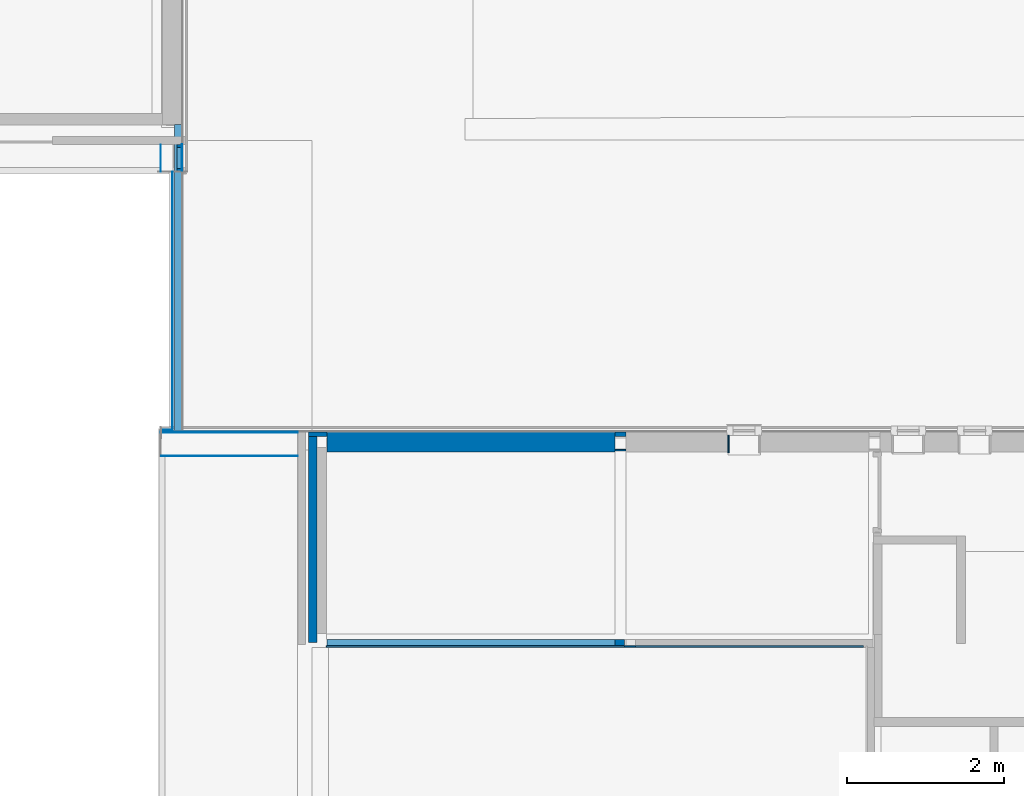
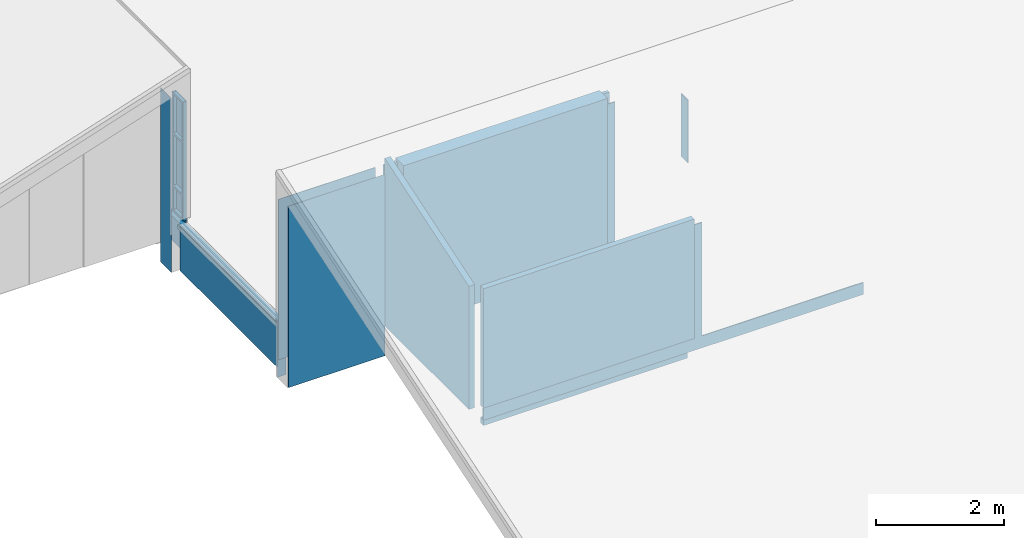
# One storey, part 17 of 66: 17 walls, 2 openings.
"""IFC2X3 building model written with IfcOpenShell, lengths in millimetres."""

from ifc_helpers import new_model, entity, si_unit, converted_unit, derived_unit, direction, frame, frame_2d, origin, origin_2d_with_axis, place, context, subcontext, project, spatial, rectangle, extrude, clip, halfspace, material, layer, layer_set, layer_usage, type_object, element, save


model = new_model("IFC2X3")

# Units and contexts
model_context = context("Model", 3, precision=0.01, world=origin(), true_north=direction((6.12303176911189e-17, 1.0)))
body_context = subcontext(model_context, "Body", "Model", "MODEL_VIEW")
ifc_project = project(units=[si_unit("LENGTHUNIT", "METRE", prefix="MILLI"), si_unit("AREAUNIT", "SQUARE_METRE"), si_unit("VOLUMEUNIT", "CUBIC_METRE"), converted_unit("PLANEANGLEUNIT", "DEGREE", entity("IfcRatioMeasure", 0.0174532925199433), si_unit("PLANEANGLEUNIT", "RADIAN"), dimensions=[0, 0, 0, 0, 0, 0, 0]), si_unit("MASSUNIT", "GRAM", prefix="KILO"), derived_unit("MASSDENSITYUNIT", [(si_unit("MASSUNIT", "GRAM", prefix="KILO"), 1), (si_unit("LENGTHUNIT", "METRE"), -3)]), derived_unit("MOMENTOFINERTIAUNIT", [(si_unit("LENGTHUNIT", "METRE"), 4)]), si_unit("TIMEUNIT", "SECOND"), si_unit("FREQUENCYUNIT", "HERTZ"), si_unit("THERMODYNAMICTEMPERATUREUNIT", "DEGREE_CELSIUS"), derived_unit("THERMALTRANSMITTANCEUNIT", [(si_unit("MASSUNIT", "GRAM", prefix="KILO"), 1), (si_unit("THERMODYNAMICTEMPERATUREUNIT", "KELVIN"), -1), (si_unit("TIMEUNIT", "SECOND"), -3)]), derived_unit("VOLUMETRICFLOWRATEUNIT", [(si_unit("LENGTHUNIT", "METRE"), 3), (si_unit("TIMEUNIT", "SECOND"), -1)]), si_unit("ELECTRICCURRENTUNIT", "AMPERE"), si_unit("ELECTRICVOLTAGEUNIT", "VOLT"), si_unit("POWERUNIT", "WATT"), si_unit("FORCEUNIT", "NEWTON", prefix="KILO"), si_unit("ILLUMINANCEUNIT", "LUX"), si_unit("LUMINOUSFLUXUNIT", "LUMEN"), si_unit("LUMINOUSINTENSITYUNIT", "CANDELA"), derived_unit("USERDEFINED", [(si_unit("MASSUNIT", "GRAM", prefix="KILO"), -1), (si_unit("LENGTHUNIT", "METRE"), -2), (si_unit("TIMEUNIT", "SECOND"), 3), (si_unit("LUMINOUSFLUXUNIT", "LUMEN"), 1)]), derived_unit("LINEARVELOCITYUNIT", [(si_unit("LENGTHUNIT", "METRE"), 1), (si_unit("TIMEUNIT", "SECOND"), -1)]), si_unit("PRESSUREUNIT", "PASCAL"), derived_unit("USERDEFINED", [(si_unit("LENGTHUNIT", "METRE"), -2), (si_unit("MASSUNIT", "GRAM", prefix="KILO"), 1), (si_unit("TIMEUNIT", "SECOND"), -2)]), derived_unit("LINEARFORCEUNIT", [(si_unit("MASSUNIT", "GRAM", prefix="KILO"), 1), (si_unit("LENGTHUNIT", "METRE"), 1), (si_unit("TIMEUNIT", "SECOND"), -2), (si_unit("LENGTHUNIT", "METRE"), -1)]), derived_unit("PLANARFORCEUNIT", [(si_unit("MASSUNIT", "GRAM", prefix="KILO"), 1), (si_unit("LENGTHUNIT", "METRE"), 1), (si_unit("TIMEUNIT", "SECOND"), -2), (si_unit("LENGTHUNIT", "METRE"), -2)])], contexts=[model_context])

# Site, building, storey
site_placement = place(None, origin())
site = spatial("IfcSite", under=ifc_project, at=site_placement, Name="Default", CompositionType="ELEMENT")
building_placement = place(site_placement, origin())
building = spatial("IfcBuilding", under=site, at=building_placement, Name="-", CompositionType="ELEMENT")
storey_placement = place(building_placement, frame((0.0, 0.0, 3070.0)))
storey = spatial("IfcBuildingStorey", under=building, at=storey_placement, Name="01 eerste verdieping", CompositionType="ELEMENT", Elevation=3070.00000000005)

# Walls
ifc_material_1 = material(Name="NLRS_i4_hout_multiplex zwart")
ifc_layer_1 = layer(ifc_material_1, 15.0)
ifc_material_2 = material(Name="NLRS_m1_isolatie")
ifc_layer_2 = layer(ifc_material_2, 75.0)
ifc_material_3 = material(Name="NLRS_f7_gipsplaat_gen")
ifc_layer_3 = layer(ifc_material_3, 12.5)
ifc_layer_set_1 = layer_set([ifc_layer_1, ifc_layer_2, ifc_layer_3], Name="Basic Wall:NLRS_21_WA_Metalstud 100mm (achter sierbekleding)")
ifc_layer_usage_1 = layer_usage(ifc_layer_set_1, "AXIS2", "POSITIVE", -51.25)
wall_type_1 = type_object("IfcWallType", Name="Basic Wall:NLRS_21_WA_Metalstud 100mm (achter sierbekleding)", PredefinedType="STANDARD", material=ifc_layer_set_1)
wall_1_placement = place(storey_placement, frame((11633.0104288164, 7699.87122230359, -18.0)))
element("IfcWallStandardCase", 1, at=wall_1_placement, inside=storey, type_object=wall_type_1, material=ifc_layer_usage_1, Name="Basic Wall:NLRS_21_WA_Metalstud 100mm (achter sierbekleding)", ObjectType="Basic Wall:NLRS_21_WA_Metalstud 100mm (achter sierbekleding)", context=body_context, shape_type="SweptSolid", body=[
    extrude(rectangle(XDim=3803.85, YDim=102.500000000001, at=frame_2d((1901.925, 1.45661260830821e-13), x_axis=(-1.0, 0.0))), origin(), (0.0, 0.0, 1.0), 2278.0),
])
ifc_layer_usage_2 = layer_usage(ifc_layer_set_1, "AXIS2", "POSITIVE", -51.25)
wall_2_placement = place(storey_placement, frame((11633.0104288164, 7699.87122230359, -350.0)))
element("IfcWallStandardCase", 2, at=wall_2_placement, inside=storey, type_object=wall_type_1, material=ifc_layer_usage_2, Name="Basic Wall:NLRS_21_WA_Metalstud 100mm (achter sierbekleding)", ObjectType="Basic Wall:NLRS_21_WA_Metalstud 100mm (achter sierbekleding)", context=body_context, shape_type="SweptSolid", body=[
    extrude(rectangle(XDim=3683.5, YDim=102.500000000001, at=frame_2d((1841.75, -4.61852778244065e-14), x_axis=(-1.0, 0.0))), origin(), (0.0, 0.0, 1.0), 101.999999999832),
])
ifc_material_4 = material(Name="h7_zink zwart")
ifc_layer_4 = layer(ifc_material_4, 3.0)
ifc_layer_set_2 = layer_set([ifc_layer_4], Name="Basic Wall:NLRS_42_WA_beplating_zijkant hellend dak")
ifc_layer_usage_3 = layer_usage(ifc_layer_set_2, "AXIS2", "NEGATIVE", 1.5)
wall_type_2 = type_object("IfcWallType", Name="Basic Wall:NLRS_42_WA_beplating_zijkant hellend dak", PredefinedType="STANDARD", material=ifc_layer_set_2)
wall_3_placement = place(storey_placement, frame((9518.49178769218, 10094.6240954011, -370.0)))
element("IfcWallStandardCase", 3, at=wall_3_placement, inside=storey, type_object=wall_type_2, material=ifc_layer_usage_3, Name="Basic Wall:NLRS_42_WA_beplating_zijkant hellend dak", ObjectType="Basic Wall:NLRS_42_WA_beplating_zijkant hellend dak", context=body_context, shape_type="SweptSolid", body=[
    extrude(rectangle(XDim=1743.01864112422, YDim=2.99999999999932, at=frame_2d((871.509320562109, 4.56079618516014e-13), x_axis=(-1.0, 0.0))), origin(), (0.0, 0.0, 1.0), 3465.21906451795),
])
ifc_layer_usage_4 = layer_usage(ifc_layer_set_2, "AXIS2", "NEGATIVE", 1.5)
wall_4_placement = place(storey_placement, frame((9509.49999999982, 13728.8169709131, -370.0), z_axis=(0.0, 0.0, 1.0), x_axis=(0.0, 1.0, 0.0)))
element("IfcWallStandardCase", 4, at=wall_4_placement, inside=storey, type_object=wall_type_2, material=ifc_layer_usage_4, Name="Basic Wall:NLRS_42_WA_beplating_zijkant hellend dak", ObjectType="Basic Wall:NLRS_42_WA_beplating_zijkant hellend dak", context=body_context, shape_type="SweptSolid", body=[
    extrude(rectangle(XDim=341.30712448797, YDim=2.99999999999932, at=frame_2d((170.653562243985, -2.83106871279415e-13), x_axis=(-1.0, 0.0))), origin(), (0.0, 0.0, 1.0), 3321.0841471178),
])
ifc_layer_usage_5 = layer_usage(ifc_layer_set_2, "AXIS2", "NEGATIVE", 1.5)
wall_5_placement = place(storey_placement, frame((9518.49178769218, 10425.6240954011, -370.0)))
element("IfcWallStandardCase", 5, at=wall_5_placement, inside=storey, type_object=wall_type_2, material=ifc_layer_usage_5, Name="Basic Wall:NLRS_42_WA_beplating_zijkant hellend dak", ObjectType="Basic Wall:NLRS_42_WA_beplating_zijkant hellend dak", context=body_context, shape_type="SweptSolid", body=[
    extrude(rectangle(XDim=147.508212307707, YDim=2.99999999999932, at=frame_2d((73.7541061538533, 0.0), x_axis=(-1.0, 0.0))), origin(), (0.0, 0.0, 1.0), 989.999999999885),
])
ifc_material_5 = material(Name="NLRS_n7_Kooltherm Resol hardschuim 0.02 (0.1)_Kingspan")
ifc_layer_5 = layer(ifc_material_5, 105.0)
ifc_layer_set_3 = layer_set([ifc_layer_5], Name="Basic Wall:NLRS_22_WA_LB_isolatie Kooltherm K8 105mm_Kingspan_BO")
ifc_layer_usage_6 = layer_usage(ifc_layer_set_3, "AXIS2", "NEGATIVE", 52.5)
wall_type_3 = type_object("IfcWallType", Name="Basic Wall:NLRS_22_WA_LB_isolatie Kooltherm K8 105mm_Kingspan_BO", PredefinedType="STANDARD", material=ifc_layer_set_3)
wall_6_placement = place(storey_placement, frame((11454.0104288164, 10341.820250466, 0.0), z_axis=(0.0, 0.0, 1.0), x_axis=(0.0, -1.0, 0.0)))
element("IfcWallStandardCase", 6, at=wall_6_placement, inside=storey, type_object=wall_type_3, material=ifc_layer_usage_6, Name="Basic Wall:NLRS_22_WA_LB_isolatie Kooltherm K8 105mm_Kingspan_BO", ObjectType="Basic Wall:NLRS_22_WA_LB_isolatie Kooltherm K8 105mm_Kingspan_BO", context=body_context, shape_type="Clipping", body=[
    clip(extrude(rectangle(XDim=2632.6990281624, YDim=105.000000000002, at=frame_2d((1316.3495140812, 3.5527136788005e-15), x_axis=(-1.0, 0.0))), origin(), (0.0, 0.0, 1.0), 3203.5427253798), halfspace(frame((0.0, -52.4999999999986, 3203.5427253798), z_axis=(0.307618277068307, 0.0, 0.951509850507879), x_axis=(0.0, 1.0, 0.0)), False)),
])
ifc_material_6 = material(Name="n6_kunststof_RAL 7035")
ifc_layer_6 = layer(ifc_material_6, 10.0)
ifc_layer_set_4 = layer_set([ifc_layer_6], Name="Basic Wall:NLRS_42_WA_Trespa RAL 7035 - 10mm")
ifc_layer_usage_7 = layer_usage(ifc_layer_set_4, "AXIS2", "NEGATIVE", 5.0)
wall_type_4 = type_object("IfcWallType", Name="Basic Wall:NLRS_42_WA_Trespa RAL 7035 - 10mm", PredefinedType="STANDARD", material=ifc_layer_set_4)
wall_7_placement = place(storey_placement, frame((9661.0, 10442.1240954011, -380.0), z_axis=(0.0, 0.0, 1.0), x_axis=(0.0, 1.0, 0.0)))
element("IfcWallStandardCase", 7, at=wall_7_placement, inside=storey, type_object=wall_type_4, material=ifc_layer_usage_7, Name="Basic Wall:NLRS_42_WA_Trespa RAL 7035 - 10mm", ObjectType="Basic Wall:NLRS_42_WA_Trespa RAL 7035 - 10mm", context=body_context, shape_type="SweptSolid", body=[
    extrude(rectangle(XDim=3283.69287551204, YDim=9.99999999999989, at=frame_2d((1641.84643775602, -1.77635683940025e-15), x_axis=(-1.0, 0.0))), origin(), (0.0, 0.0, 1.0), 849.100000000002),
])
ifc_layer_7 = layer(ifc_material_2, 89.0)
ifc_material_7 = material(Name="NLRS_i4_hout_multiplex")
ifc_layer_8 = layer(ifc_material_7, 9.0)
ifc_layer_set_5 = layer_set([ifc_layer_7, ifc_layer_8], Name="Basic Wall:NLRS_21_WA_HSB-wand_98mm")
ifc_layer_usage_8 = layer_usage(ifc_layer_set_5, "AXIS2", "NEGATIVE", 49.0)
wall_type_5 = type_object("IfcWallType", Name="Basic Wall:NLRS_21_WA_HSB-wand_98mm", PredefinedType="STANDARD", material=ifc_layer_set_5)
wall_8_placement = place(storey_placement, frame((9737.0, 10395.6240954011, 0.0), z_axis=(0.0, 0.0, 1.0), x_axis=(0.0, 1.0, 0.0)))
element("IfcWallStandardCase", 8, at=wall_8_placement, inside=storey, type_object=wall_type_5, material=ifc_layer_usage_8, Name="Basic Wall:NLRS_21_WA_HSB-wand_98mm", ObjectType="Basic Wall:NLRS_21_WA_HSB-wand_98mm", context=body_context, shape_type="SweptSolid", body=[
    extrude(rectangle(XDim=3934.19615506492, YDim=98.0000000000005, at=frame_2d((1967.09807753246, 1.45661260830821e-13), x_axis=(-1.0, 0.0))), origin(), (0.0, 0.0, 1.0), 469.100000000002),
])
ifc_layer_9 = layer(ifc_material_7, 18.0)
ifc_layer_set_6 = layer_set([ifc_layer_9], Name="Basic Wall:NLRS_41_WA_plaatmateriaal 18mm_gen_aly")
ifc_layer_usage_9 = layer_usage(ifc_layer_set_6, "AXIS2", "POSITIVE", -9.0)
wall_type_6 = type_object("IfcWallType", Name="Basic Wall:NLRS_41_WA_plaatmateriaal 18mm_gen_aly", PredefinedType="STANDARD", material=ifc_layer_set_6)
wall_9_placement = place(storey_placement, frame((15315.8284331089, 10168.624095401, 0.0)))
element("IfcWallStandardCase", 9, at=wall_9_placement, inside=storey, type_object=wall_type_6, material=ifc_layer_usage_9, Name="Basic Wall:NLRS_41_WA_plaatmateriaal 18mm_gen_aly", ObjectType="Basic Wall:NLRS_41_WA_plaatmateriaal 18mm_gen_aly", context=body_context, shape_type="SweptSolid", body=[
    extrude(rectangle(XDim=140.000000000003, YDim=18.0000000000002, at=frame_2d((70.0000000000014, 1.55431223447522e-13), x_axis=(-1.0, 0.0))), origin(), (0.0, 0.0, 1.0), 2970.0),
])
ifc_layer_10 = layer(ifc_material_7, 10.0)
ifc_layer_11 = layer(ifc_material_2, 235.0)
ifc_layer_12 = layer(ifc_material_7, 10.0)
ifc_layer_set_7 = layer_set([ifc_layer_10, ifc_layer_11, ifc_layer_12], Name="Basic Wall:NLRS_21_WA_HSB-wand_268mm (zonder gips)")
ifc_layer_usage_10 = layer_usage(ifc_layer_set_7, "AXIS2", "NEGATIVE", 127.5)
wall_type_7 = type_object("IfcWallType", Name="Basic Wall:NLRS_21_WA_HSB-wand_268mm (zonder gips)", PredefinedType="STANDARD", material=ifc_layer_set_7)
wall_10_placement = place(storey_placement, frame((11633.0104288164, 10274.6240954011, 0.0)))
element("IfcWallStandardCase", 10, at=wall_10_placement, inside=storey, type_object=wall_type_7, material=ifc_layer_usage_10, Name="Basic Wall:NLRS_21_WA_HSB-wand_268mm (zonder gips)", ObjectType="Basic Wall:NLRS_21_WA_HSB-wand_268mm (zonder gips)", context=body_context, shape_type="SweptSolid", body=[
    extrude(rectangle(XDim=3682.81800429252, YDim=254.999999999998, at=frame_2d((1841.40900214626, 4.05009359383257e-13), x_axis=(-1.0, 0.0))), origin(), (0.0, 0.0, 1.0), 3093.29999999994),
])
ifc_material_8 = material(Name="AL_Multiplex RAL 9002")
ifc_layer_13 = layer(ifc_material_8, 15.0)
ifc_layer_set_8 = layer_set([ifc_layer_13], Name="Basic Wall:NLRS_41_WA_plaatmateriaal 15mm RAL 9002")
ifc_layer_usage_11 = layer_usage(ifc_layer_set_8, "AXIS2", "NEGATIVE", 7.5)
wall_type_8 = type_object("IfcWallType", Name="Basic Wall:NLRS_41_WA_plaatmateriaal 15mm RAL 9002", PredefinedType="STANDARD", material=ifc_layer_set_8)
wall_11_placement = place(storey_placement, frame((16765.5000000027, 10357.1240954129, 1361.0), z_axis=(0.0, 0.0, 1.0), x_axis=(0.0, -1.0, 0.0)))
element("IfcWallStandardCase", 11, at=wall_11_placement, inside=storey, type_object=wall_type_8, material=ifc_layer_usage_11, Name="Basic Wall:NLRS_41_WA_plaatmateriaal 15mm RAL 9002", ObjectType="Basic Wall:NLRS_41_WA_plaatmateriaal 15mm RAL 9002", context=body_context, shape_type="SweptSolid", body=[
    extrude(rectangle(XDim=220.0, YDim=15.0000000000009, at=frame_2d((110.0, -4.70290473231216e-13), x_axis=(-1.0, 0.0))), origin(), (0.0, 0.0, 1.0), 1192.99999999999),
])
ifc_material_9 = material(Name="NLRS_n7_isolatie PIR_gen")
ifc_layer_14 = layer(ifc_material_9, 60.0)
ifc_layer_set_9 = layer_set([ifc_layer_14], Name="Basic Wall:NLRS_22_WA_LB_isolatie PIR 60mm")
ifc_layer_usage_12 = layer_usage(ifc_layer_set_9, "AXIS2", "NEGATIVE", 30.0)
wall_type_9 = type_object("IfcWallType", Name="Basic Wall:NLRS_22_WA_LB_isolatie PIR 60mm", PredefinedType="STANDARD", material=ifc_layer_set_9)
wall_12_placement = place(storey_placement, frame((15315.8284331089, 10370.728362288, 0.0)))
element("IfcWallStandardCase", 12, at=wall_12_placement, inside=storey, type_object=wall_type_9, material=ifc_layer_usage_12, Name="Basic Wall:NLRS_22_WA_LB_isolatie PIR 60mm", ObjectType="Basic Wall:NLRS_22_WA_LB_isolatie PIR 60mm", context=body_context, shape_type="SweptSolid", body=[
    extrude(rectangle(XDim=139.999999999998, YDim=59.9999999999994, at=frame_2d((69.9999999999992, 2.57571741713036e-13), x_axis=(-1.0, 0.0))), origin(), (0.0, 0.0, 1.0), 3045.0),
])
ifc_layer_usage_13 = layer_usage(ifc_layer_set_9, "AXIS2", "NEGATIVE", 30.0)
wall_13_placement = place(storey_placement, frame((11401.5104288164, 10371.820250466, 0.0)))
element("IfcWallStandardCase", 13, at=wall_13_placement, inside=storey, type_object=wall_type_9, material=ifc_layer_usage_13, Name="Basic Wall:NLRS_22_WA_LB_isolatie PIR 60mm", ObjectType="Basic Wall:NLRS_22_WA_LB_isolatie PIR 60mm", context=body_context, shape_type="SweptSolid", body=[
    extrude(rectangle(XDim=231.500000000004, YDim=59.9999999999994, at=frame_2d((115.750000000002, 4.2810199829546e-13), x_axis=(-1.0, 0.0))), origin(), (0.0, 0.0, 1.0), 3045.0),
])
ifc_material_10 = material(Name="NLRS_i4_hout_multiplex wit")
ifc_layer_15 = layer(ifc_material_10, 9.0)
ifc_layer_set_10 = layer_set([ifc_layer_15], Name="Basic Wall:NLRS_41_WA_plaatmateriaal 9mm_gen_aly")
ifc_layer_usage_14 = layer_usage(ifc_layer_set_10, "AXIS2", "NEGATIVE", 4.5)
wall_type_10 = type_object("IfcWallType", Name="Basic Wall:NLRS_41_WA_plaatmateriaal 9mm_gen_aly", PredefinedType="STANDARD", material=ifc_layer_set_10)
wall_14_placement = place(storey_placement, frame((11261.5104288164, 10397.624095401, -18.0), z_axis=(0.0, 0.0, 1.0), x_axis=(-1.0, 0.0, 0.0)))
element("IfcWallStandardCase", 14, at=wall_14_placement, inside=storey, type_object=wall_type_10, material=ifc_layer_usage_14, Name="Basic Wall:NLRS_41_WA_plaatmateriaal 9mm_gen_aly", ObjectType="Basic Wall:NLRS_41_WA_plaatmateriaal 9mm_gen_aly", context=body_context, shape_type="SweptSolid", body=[
    extrude(rectangle(XDim=1750.51042881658, YDim=8.99999999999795, at=frame_2d((875.255214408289, 0.0), x_axis=(-1.0, 0.0))), origin(), (0.0, 0.0, 1.0), 3063.0),
])
ifc_layer_usage_15 = layer_usage(ifc_layer_set_10, "AXIS2", "NEGATIVE", 4.5)
wall_15_placement = place(storey_placement, frame((9781.49999999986, 13737.3169709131, 369.385184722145), z_axis=(0.0, 0.0, 1.0), x_axis=(0.0, 1.0, 0.0)))
element("IfcWallStandardCase", 15, at=wall_15_placement, inside=storey, type_object=wall_type_10, material=ifc_layer_usage_15, Name="Basic Wall:NLRS_41_WA_plaatmateriaal 9mm_gen_aly", ObjectType="Basic Wall:NLRS_41_WA_plaatmateriaal 9mm_gen_aly", context=body_context, shape_type="SweptSolid", body=[
    extrude(rectangle(XDim=337.807124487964, YDim=8.99999999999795, at=frame_2d((168.903562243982, 0.0), x_axis=(-1.0, 0.0))), origin(), (0.0, 0.0, 1.0), 2436.79165087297),
])

# Wall, openings
ifc_layer_16 = layer(ifc_material_1, 18.0)
ifc_layer_set_11 = layer_set([ifc_layer_16], Name="Basic Wall:NLRS_41_WA_plaatmateriaal 18mm zwart")
ifc_layer_usage_16 = layer_usage(ifc_layer_set_11, "AXIS2", "NEGATIVE", 9.0)
wall_type_11 = type_object("IfcWallType", Name="Basic Wall:NLRS_41_WA_plaatmateriaal 18mm zwart", PredefinedType="STANDARD", material=ifc_layer_set_11)
wall_16_placement = place(storey_placement, frame((18490.1948343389, 7657.62122230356, -248.0), z_axis=(0.0, 0.0, 1.0), x_axis=(-1.0, 0.0, 0.0)))
wall_16 = element("IfcWallStandardCase", 16, at=wall_16_placement, inside=storey, type_object=wall_type_11, material=ifc_layer_usage_16, Name="Basic Wall:NLRS_41_WA_plaatmateriaal 18mm zwart", ObjectType="Basic Wall:NLRS_41_WA_plaatmateriaal 18mm zwart", context=body_context, shape_type="Clipping", body=[
    clip(extrude(rectangle(XDim=6863.68440552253, YDim=18.0000000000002, at=frame_2d((3431.84220276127, 0.0), x_axis=(-1.0, 0.0))), origin(), (0.0, 0.0, 1.0), 2397.99999999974), halfspace(frame((2913.63440704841, -9.0, 2398.0), z_axis=(0.0, 0.0, 1.0), x_axis=(0.0, 1.0, 0.0)), False)),
])
opening_1_placement = place(wall_16_placement, origin())
element("IfcOpeningElement", 17, at=opening_1_placement, cuts=wall_16, Name="Basic Wall:NLRS_41_WA_plaatmateriaal 18mm zwart", ObjectType="Opening", context=body_context, shape_type="SweptSolid", body=[
    extrude(rectangle(XDim=2167.99999999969, YDim=3810.35, at=frame_2d((2.27373675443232e-13, -1.02318153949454e-12), x_axis=(1.0, 0.0))), frame((4958.50940552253, 9.0, 1314.0), z_axis=(0.0, -1.0, 0.0), x_axis=(0.0, 0.0, 1.0)), (0.0, 0.0, 1.0), 18.0),
])
opening_2_placement = place(wall_16_placement, origin())
element("IfcOpeningElement", 18, at=opening_2_placement, cuts=wall_16, Name="Basic Wall:NLRS_41_WA_plaatmateriaal 18mm zwart", ObjectType="Opening", context=body_context, shape_type="SweptSolid", body=[
    extrude(rectangle(XDim=2167.99999999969, YDim=2913.63440704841, at=frame_2d((-1.13686837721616e-12, 2.27373675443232e-13), x_axis=(0.0, 1.0))), frame((1456.81720352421, 9.0, 1314.0), z_axis=(0.0, -1.0, 0.0), x_axis=(-1.0, 0.0, 0.0)), (0.0, 0.0, 1.0), 18.0),
])

# Wall
ifc_material_11 = material(Name="AL_31_Naaldhout (vuren)")
wall_type_12 = type_object("IfcWallType", Name="Bevestiging zinken kader dak14:Bevestiging zinken kader dak", PredefinedType="NOTDEFINED", material=ifc_material_11)
wall_17_placement = place(storey_placement, frame((9719.0, 13728.8169709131, 532.5), z_axis=(0.0, 0.0, 1.0), x_axis=(0.0, 1.0, 0.0)))
element("IfcWall", 19, at=wall_17_placement, inside=storey, type_object=wall_type_12, material=ifc_material_11, Name="Bevestiging zinken kader dak14:Bevestiging zinken kader dak", ObjectType="Bevestiging zinken kader dak14:Bevestiging zinken kader dak", context=body_context, shape_type="SweptSolid", body=[
    extrude(rectangle(XDim=38.0, YDim=57.9999999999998, at=origin_2d_with_axis()), frame((327.307124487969, -29.0, 0.0), z_axis=(0.0, 0.0, 1.0), x_axis=(-1.0, 0.0, 0.0)), (0.0, 0.0, 1.0), 2274.50000000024),
    extrude(rectangle(XDim=270.307124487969, YDim=58.0000000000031, at=frame_2d((0.0, -5.40012479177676e-13), x_axis=(1.0, 0.0))), frame((173.153562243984, -29.0, 467.5), z_axis=(0.0, 0.0, 1.0), x_axis=(-1.0, 0.0, 0.0)), (0.0, 0.0, 1.0), 38.0),
    extrude(rectangle(XDim=270.307124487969, YDim=58.0000000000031, at=frame_2d((0.0, -5.40012479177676e-13), x_axis=(1.0, 0.0))), frame((173.153562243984, -29.0, 1467.5), z_axis=(0.0, 0.0, 1.0), x_axis=(-1.0, 0.0, 0.0)), (0.0, 0.0, 1.0), 38.0),
    extrude(rectangle(XDim=270.307124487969, YDim=58.0000000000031, at=frame_2d((0.0, -5.40012479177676e-13), x_axis=(1.0, 0.0))), frame((173.153562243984, -29.0, 2236.5), z_axis=(0.0, 0.0, 1.0), x_axis=(-1.0, 0.0, 0.0)), (0.0, 0.0, 1.0), 37.1768355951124),
    extrude(rectangle(XDim=270.307124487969, YDim=58.0000000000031, at=frame_2d((0.0, -5.40012479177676e-13), x_axis=(1.0, 0.0))), frame((173.153562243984, -29.0, 0.0), z_axis=(0.0, 0.0, 1.0), x_axis=(-1.0, 0.0, 0.0)), (0.0, 0.0, 1.0), 38.0),
    extrude(rectangle(XDim=38.0, YDim=58.0000000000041, at=frame_2d((0.0, -1.08357767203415e-12), x_axis=(1.0, 0.0))), frame((19.0, -29.0, 0.0), z_axis=(0.0, 0.0, 1.0), x_axis=(-1.0, 0.0, 0.0)), (0.0, 0.0, 1.0), 2273.70342630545),
])

save(model, "model.ifc")
